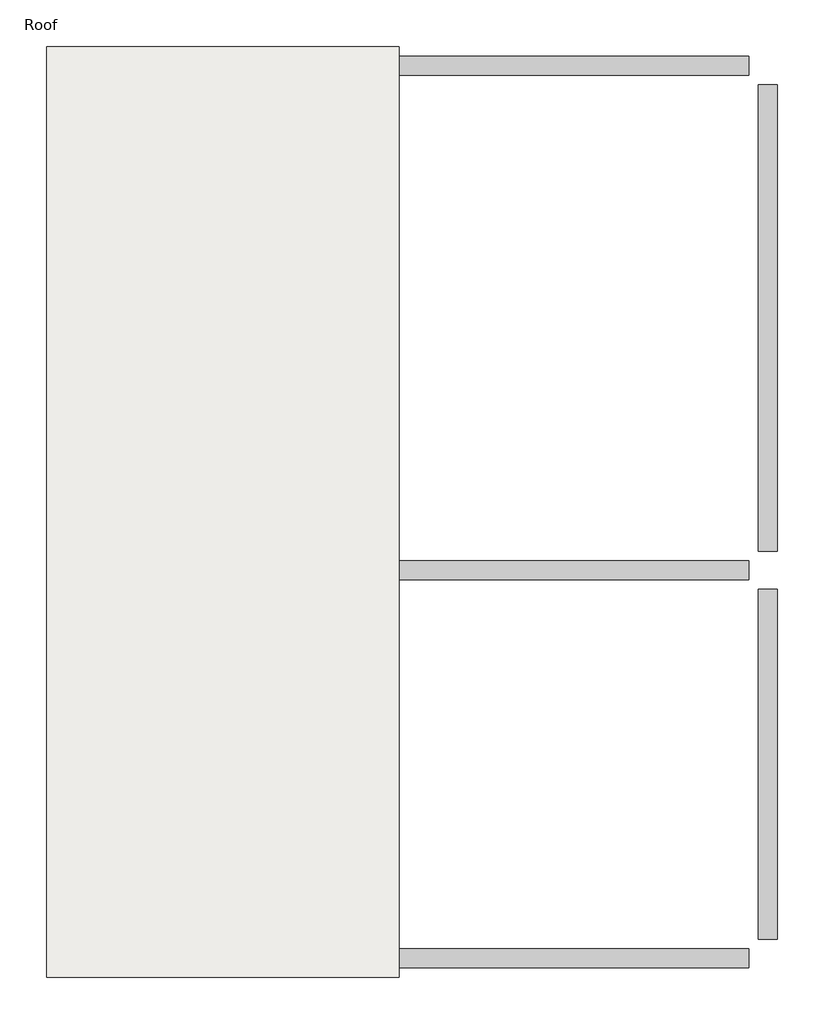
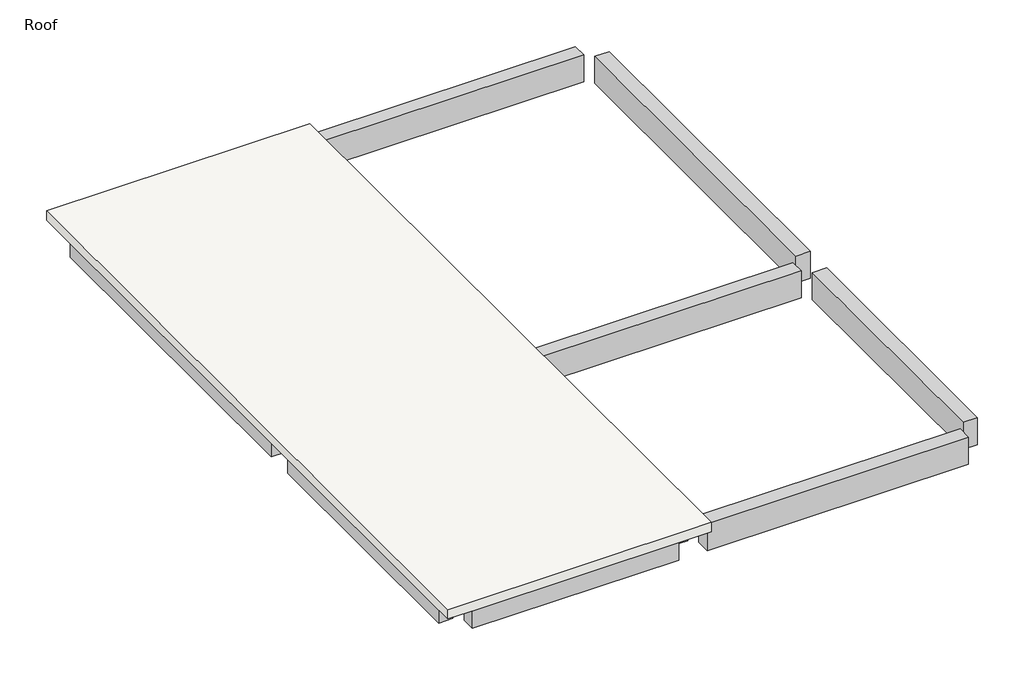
# One storey: 12 beams, 1 slab.
"""IFC4 building model written with IfcOpenShell, lengths in millimetres."""

from ifc_helpers import new_model, si_unit, frame, origin, place, context, project, spatial, polyline, outline, extrude, faceted_brep, element, save

model = new_model("IFC4")

# Units and contexts
model_context = context("Model", 3, world=origin())
ifc_project = project(units=[si_unit("LENGTHUNIT", "METRE", prefix="MILLI")], contexts=[model_context])

# Site, building, storey
site = spatial("IfcSite", under=ifc_project)
building = spatial("IfcBuilding", under=site)
storey = spatial("IfcBuildingStorey", under=building, Name="Roof", Elevation=7315.0)

# Beams
placement = place(None, origin())
element("IfcBeam", 1, ObjectType="M_Concrete-Rectangular Beam : 300 x 600mm", at=placement, inside=storey, context=model_context, shape_type="SweptSolid", body=[
    extrude(outline(polyline([(-16304.9035319, 4112.1636035), (-16304.9035319, 4412.1636035), (-10808.9035319, 4412.1636035), (-10808.9035319, 4112.1636035), (-16304.9035319, 4112.1636035)])), frame((0.0, 0.0, 6715.0), z_axis=(0.0, 0.0, 1.0), x_axis=(1.0, 0.0, 0.0)), (0.0, 0.0, 1.0), 600.0),
])
element("IfcBeam", 2, ObjectType="M_Concrete-Rectangular Beam : 300 x 600mm", at=placement, inside=storey, context=model_context, shape_type="SweptSolid", body=[
    extrude(outline(polyline([(-21244.300634, 4112.1636035), (-21244.300634, 4412.1636035), (-16904.9035319, 4412.1636035), (-16904.9035319, 4112.1636035), (-21244.300634, 4112.1636035)])), frame((0.0, 0.0, 6715.0), z_axis=(0.0, 0.0, 1.0), x_axis=(1.0, 0.0, 0.0)), (0.0, 0.0, 1.0), 510.0),
])
element("IfcBeam", 3, ObjectType="M_Concrete-Rectangular Beam : 300 x 600mm", at=placement, inside=storey, context=model_context, shape_type="SweptSolid", body=[
    extrude(outline(polyline([(-16304.9035319, -3812.8363965), (-16304.9035319, -3512.8363965), (-10808.9035319, -3512.8363965), (-10808.9035319, -3812.8363965), (-16304.9035319, -3812.8363965)])), frame((0.0, 0.0, 6715.0), z_axis=(0.0, 0.0, 1.0), x_axis=(1.0, 0.0, 0.0)), (0.0, 0.0, 1.0), 600.0),
])
element("IfcBeam", 4, ObjectType="M_Concrete-Rectangular Beam : 300 x 600mm", at=placement, inside=storey, context=model_context, shape_type="SweptSolid", body=[
    extrude(outline(polyline([(-21244.300634, -3812.8363965), (-21244.300634, -3512.8363965), (-16904.9035319, -3512.8363965), (-16904.9035319, -3812.8363965), (-21244.300634, -3812.8363965)])), frame((0.0, 0.0, 6715.0), z_axis=(0.0, 0.0, 1.0), x_axis=(1.0, 0.0, 0.0)), (0.0, 0.0, 1.0), 510.0),
])
element("IfcBeam", 5, ObjectType="M_Concrete-Rectangular Beam : 300 x 600mm", at=placement, inside=storey, context=model_context, shape_type="SweptSolid", body=[
    extrude(outline(polyline([(-16304.9035319, -9908.8363965), (-16304.9035319, -9608.8363965), (-10808.9035319, -9608.8363965), (-10808.9035319, -9908.8363965), (-16304.9035319, -9908.8363965)])), frame((0.0, 0.0, 6715.0), z_axis=(0.0, 0.0, 1.0), x_axis=(1.0, 0.0, 0.0)), (0.0, 0.0, 1.0), 600.0),
])
element("IfcBeam", 6, ObjectType="M_Concrete-Rectangular Beam : 300 x 600mm", at=placement, inside=storey, context=model_context, shape_type="SweptSolid", body=[
    extrude(outline(polyline([(-21244.300634, -9908.8363965), (-21244.300634, -9608.8363965), (-16904.9035319, -9608.8363965), (-16904.9035319, -9908.8363965), (-21244.300634, -9908.8363965)])), frame((0.0, 0.0, 6715.0), z_axis=(0.0, 0.0, 1.0), x_axis=(1.0, 0.0, 0.0)), (0.0, 0.0, 1.0), 510.0),
])
element("IfcBeam", 7, ObjectType="M_Concrete-Rectangular Beam : 300 x 600mm", at=placement, inside=storey, context=model_context, shape_type="SweptSolid", body=[
    extrude(outline(polyline([(-21394.300634, -3362.8363965), (-21694.300634, -3362.8363965), (-21694.300634, 3962.1636035), (-21394.300634, 3962.1636035), (-21394.300634, -3362.8363965)])), frame((0.0, 0.0, 6715.0), z_axis=(0.0, 0.0, 1.0), x_axis=(1.0, 0.0, 0.0)), (0.0, 0.0, 1.0), 510.0),
])
element("IfcBeam", 8, ObjectType="M_Concrete-Rectangular Beam : 300 x 600mm", at=placement, inside=storey, context=model_context, shape_type="SweptSolid", body=[
    extrude(outline(polyline([(-21394.300634, -9458.8363965), (-21694.300634, -9458.8363965), (-21694.300634, -3962.8363965), (-21394.300634, -3962.8363965), (-21394.300634, -9458.8363965)])), frame((0.0, 0.0, 6715.0), z_axis=(0.0, 0.0, 1.0), x_axis=(1.0, 0.0, 0.0)), (0.0, 0.0, 1.0), 510.0),
])
element("IfcBeam", 9, ObjectType="M_Concrete-Rectangular Beam : 300 x 600mm", at=placement, inside=storey, context=model_context, shape_type="SweptSolid", body=[
    extrude(outline(polyline([(-16454.9035319, -9458.8363965), (-16754.9035319, -9458.8363965), (-16754.9035319, -3962.8363965), (-16454.9035319, -3962.8363965), (-16454.9035319, -9458.8363965)])), frame((0.0, 0.0, 6715.0), z_axis=(0.0, 0.0, 1.0), x_axis=(1.0, 0.0, 0.0)), (0.0, 0.0, 1.0), 510.0),
])
element("IfcBeam", 10, ObjectType="M_Concrete-Rectangular Beam : 300 x 600mm", at=placement, inside=storey, context=model_context, shape_type="SweptSolid", body=[
    extrude(outline(polyline([(-16454.9035319, -3362.8363965), (-16754.9035319, -3362.8363965), (-16754.9035319, 3962.1636035), (-16454.9035319, 3962.1636035), (-16454.9035319, -3362.8363965)])), frame((0.0, 0.0, 6715.0), z_axis=(0.0, 0.0, 1.0), x_axis=(1.0, 0.0, 0.0)), (0.0, 0.0, 1.0), 510.0),
])
element("IfcBeam", 11, ObjectType="M_Concrete-Rectangular Beam : 300 x 600mm", at=placement, inside=storey, context=model_context, shape_type="SweptSolid", body=[
    extrude(outline(polyline([(-10358.9035319, -9458.8363965), (-10658.9035319, -9458.8363965), (-10658.9035319, -3962.8363965), (-10358.9035319, -3962.8363965), (-10358.9035319, -9458.8363965)])), frame((0.0, 0.0, 6715.0), z_axis=(0.0, 0.0, 1.0), x_axis=(1.0, 0.0, 0.0)), (0.0, 0.0, 1.0), 600.0),
])
element("IfcBeam", 12, ObjectType="M_Concrete-Rectangular Beam : 300 x 600mm", at=placement, inside=storey, context=model_context, shape_type="SweptSolid", body=[
    extrude(outline(polyline([(-10358.9035319, -3362.8363965), (-10658.9035319, -3362.8363965), (-10658.9035319, 3962.1636035), (-10358.9035319, 3962.1636035), (-10358.9035319, -3362.8363965)])), frame((0.0, 0.0, 6715.0), z_axis=(0.0, 0.0, 1.0), x_axis=(1.0, 0.0, 0.0)), (0.0, 0.0, 1.0), 600.0),
])

# Slab
element("IfcSlab", 13, ObjectType="160mm Concrete With 50mm Metal Deck", at=placement, inside=storey, context=model_context, shape_type="Brep", body=[
    faceted_brep([(-16304.9035319, 4562.1636035, 7225.0), (-16304.9035319, 3962.1636035, 7225.0), (-16304.9035319, -3362.8363965, 7225.0), (-16304.9035319, -3962.8363965, 7225.0), (-16304.9035319, -9458.8363965, 7225.0), (-16304.9035319, -10058.8363965, 7225.0), (-16904.9035319, -10058.8363965, 7225.0), (-21244.300634, -10058.8363965, 7225.0), (-21844.300634, -10058.8363965, 7225.0), (-21844.300634, -9458.8363965, 7225.0), (-21844.300634, -3962.8363965, 7225.0), (-21844.300634, -3362.8363965, 7225.0), (-21844.300634, 3962.1636035, 7225.0), (-21844.300634, 4562.1636035, 7225.0), (-21244.300634, 4562.1636035, 7225.0), (-16904.9035319, 4562.1636035, 7225.0), (-16304.9035319, 4562.1636035, 7435.0), (-21844.300634, 4562.1636035, 7435.0), (-21844.300634, -10058.8363965, 7435.0), (-16304.9035319, -10058.8363965, 7435.0)], [[[0, 1, 2, 3, 4, 5, 6, 7, 8, 9, 10, 11, 12, 13, 14, 15]], [[16, 17, 18, 19]], [[5, 4, 3, 2, 1, 0, 16, 19]], [[8, 7, 6, 5, 19, 18]], [[13, 12, 11, 10, 9, 8, 18, 17]], [[0, 15, 14, 13, 17, 16]]]),
])

save(model, "model.ifc")
